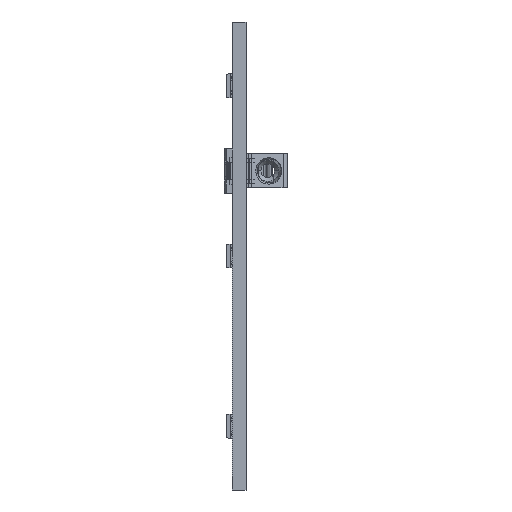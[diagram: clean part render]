
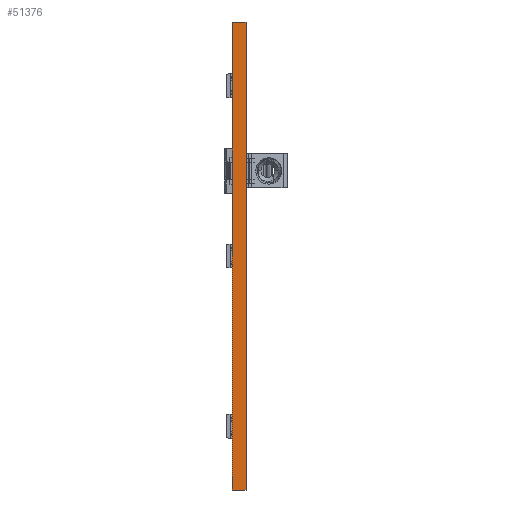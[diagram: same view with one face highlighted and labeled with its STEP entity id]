
A CAD part, left-side view. The second image highlights one B-rep face of the part: STEP entity #51376.
In plain terms, the highlighted planar face has unit normal (-1, 0, 0).
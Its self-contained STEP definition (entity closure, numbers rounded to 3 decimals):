
#498=DIRECTION('',(0.,0.,-1.));
#499=VECTOR('',#498,55.);
#500=CARTESIAN_POINT('',(-283.,0.,28.25));
#501=LINE('',#500,#499);
#17779=DIRECTION('',(0.,0.,-1.));
#17780=VECTOR('',#17779,55.);
#17781=CARTESIAN_POINT('',(-283.,-1.6,28.25));
#17782=LINE('',#17781,#17780);
#17786=DIRECTION('',(0.,1.,0.));
#17787=VECTOR('',#17786,1.6);
#17788=CARTESIAN_POINT('',(-283.,-1.6,-26.75));
#17789=LINE('',#17788,#17787);
#17800=DIRECTION('',(0.,1.,0.));
#17801=VECTOR('',#17800,1.6);
#17802=CARTESIAN_POINT('',(-283.,-1.6,28.25));
#17803=LINE('',#17802,#17801);
#32720=CARTESIAN_POINT('',(-283.,0.,-26.75));
#32722=VERTEX_POINT('',#32720);
#32726=CARTESIAN_POINT('',(-283.,0.,28.25));
#32727=VERTEX_POINT('',#32726);
#35321=CARTESIAN_POINT('',(-283.,-1.6,-26.75));
#35323=VERTEX_POINT('',#35321);
#35324=CARTESIAN_POINT('',(-283.,-1.6,28.25));
#35325=VERTEX_POINT('',#35324);
#51364=CARTESIAN_POINT('',(-283.,0.,-26.75));
#51365=DIRECTION('',(-1.,0.,0.));
#51366=DIRECTION('',(0.,0.,1.));
#51367=AXIS2_PLACEMENT_3D('',#51364,#51365,#51366);
#51368=PLANE('',#51367);
#51369=ORIENTED_EDGE('',*,*,#41789,.F.);
#51371=ORIENTED_EDGE('',*,*,#51370,.F.);
#51372=ORIENTED_EDGE('',*,*,#51127,.T.);
#51373=ORIENTED_EDGE('',*,*,#51104,.T.);
#51374=EDGE_LOOP('',(#51369,#51371,#51372,#51373));
#51375=FACE_OUTER_BOUND('',#51374,.F.);
#41789=EDGE_CURVE('',#32727,#32722,#501,.T.);
#51104=EDGE_CURVE('',#35323,#32722,#17789,.T.);
#51127=EDGE_CURVE('',#35325,#35323,#17782,.T.);
#51370=EDGE_CURVE('',#35325,#32727,#17803,.T.);
#51376=ADVANCED_FACE('',(#51375),#51368,.T.);
